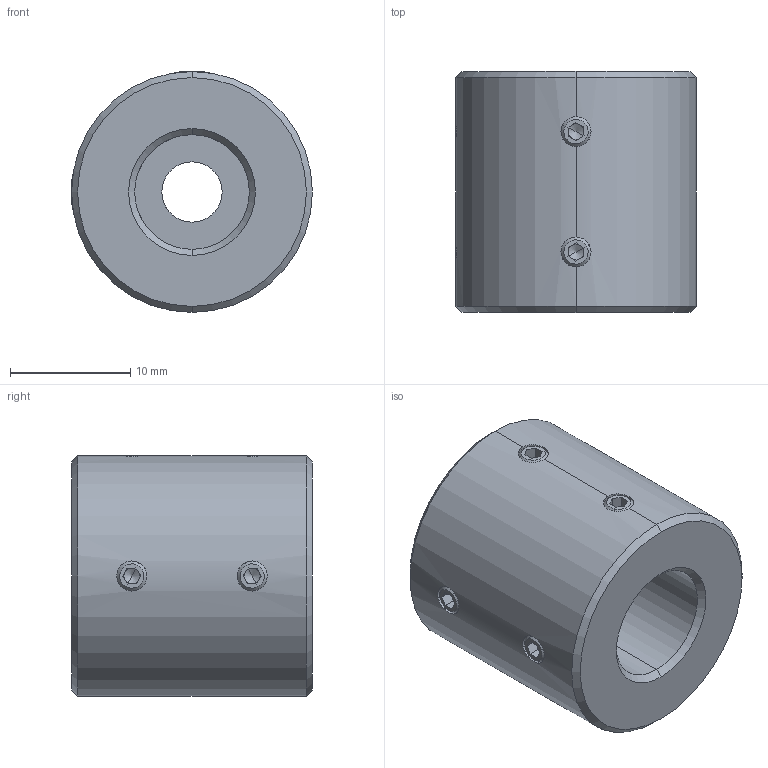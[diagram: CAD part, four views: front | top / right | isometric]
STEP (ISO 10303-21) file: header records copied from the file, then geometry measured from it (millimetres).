
FILE_DESCRIPTION (( 'STEP AP214' ), '1' );
FILE_NAME ('LL-D-D20L20-5-9.525.STEP', '2022-07-23T06:31:11', ( '' ), ( '' ), 'SwSTEP 2.0', 'SolidWorks 2022', '' );
FILE_SCHEMA (( 'AUTOMOTIVE_DESIGN' ));
Length unit declared in the file: millimetre
Products named in the file (1): LL-D-D20L20-5-9.525
Bounding box: 20 x 20 x 20 mm (x, y, z)
Volume: 5293.6 mm3; surface area: 2382.3 mm2
Topology: 1 solids, 1 shells, 113 faces, 286 edges, 176 vertices
Faces by surface type: plane 59, cone 32, cylinder 22
Entity records: 3646 total; most frequent: CARTESIAN_POINT 896, DIRECTION 582, ORIENTED_EDGE 556, EDGE_CURVE 278, AXIS2_PLACEMENT_3D 214, VERTEX_POINT 176, LINE 154, VECTOR 154
